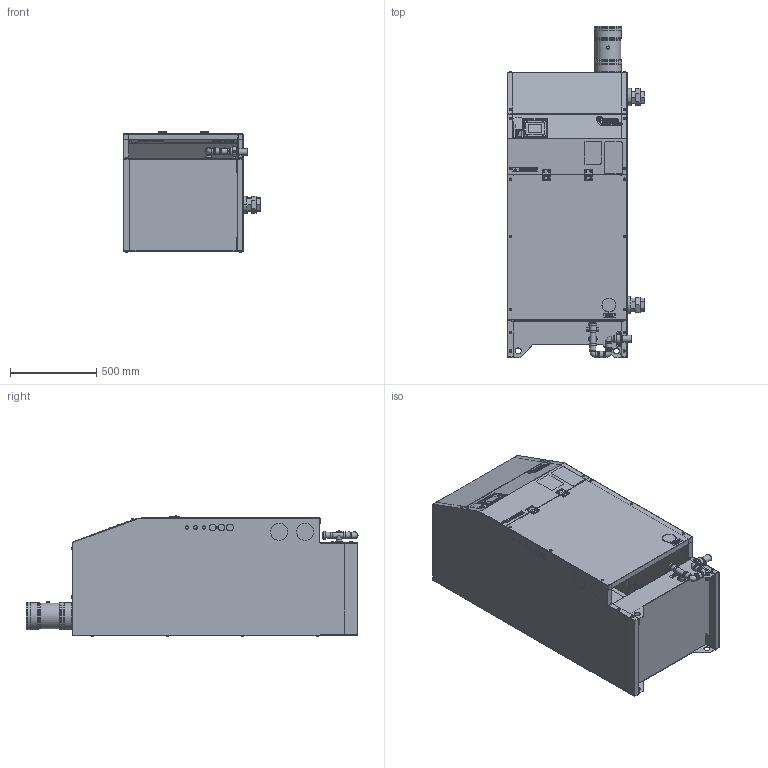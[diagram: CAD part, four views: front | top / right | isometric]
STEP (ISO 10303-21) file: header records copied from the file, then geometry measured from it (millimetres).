
FILE_DESCRIPTION (( 'STEP AP203' ), '1' );
FILE_NAME ('MDL 140-M-E.STEP', '2019-03-08T07:31:00', ( '' ), ( '' ), 'SwSTEP 2.0', 'SolidWorks 2019', '' );
FILE_SCHEMA (( 'CONFIG_CONTROL_DESIGN' ));
Length unit declared in the file: millimetre
Products named in the file (1): MDL 140-M-E
Bounding box: 793.98 x 1923.66 x 695.96 mm (x, y, z)
Surface area: 10470225.8 mm2 (no closed solid volume)
Topology: 0 solids, 244 shells, 1043 faces, 7018 edges, 6062 vertices
Faces by surface type: plane 597, cylinder 255, torus 115, sphere 42, bspline 22, cone 12
Full cylindrical faces by diameter (mm): 6 x1, 8 x2, 14 x17, 18 x1, 32 x1, 32.5 x2, 34 x10, 35 x4, 36 x6, 36.5 x1, 38 x1, 40 x5, 44 x1, 45 x2, 60.3 x2, 75 x4, 148 x1, 150 x1, 154 x2, 156 x4, 158 x1, 160 x2
Entity records: 77715 total; most frequent: CARTESIAN_POINT 28308, DIRECTION 9173, ORIENTED_EDGE 8017, EDGE_CURVE 6804, VERTEX_POINT 6009, LINE 4329, VECTOR 4329, AXIS2_PLACEMENT_3D 2422
